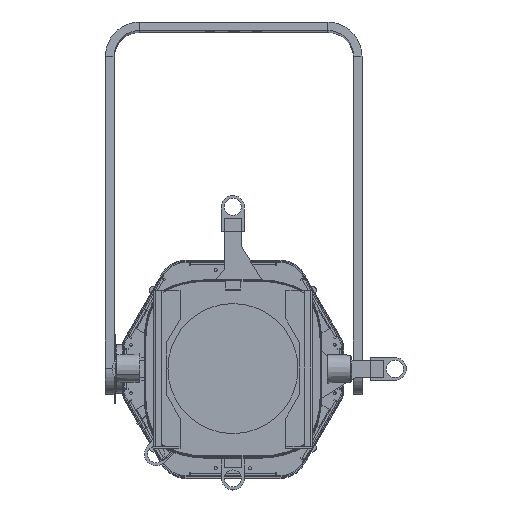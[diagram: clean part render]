
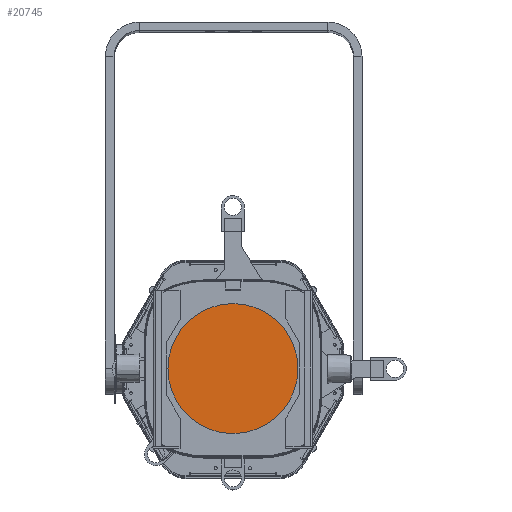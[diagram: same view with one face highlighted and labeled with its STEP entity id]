
A CAD part, top view. The second image highlights one B-rep face of the part: STEP entity #20745.
In plain terms, the highlighted planar face has unit normal (0, 0, 1).
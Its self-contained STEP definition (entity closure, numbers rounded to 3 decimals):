
#2306 = VERTEX_POINT ( 'NONE', #68409 ) ;
#3079 = CARTESIAN_POINT ( 'NONE',  ( -33., 102., -11.2 ) ) ;
#3139 = CARTESIAN_POINT ( 'NONE',  ( 33., 102., -11.2 ) ) ;
#5195 = CARTESIAN_POINT ( 'NONE',  ( -33., -102., -11.2 ) ) ;
#5926 = CARTESIAN_POINT ( 'NONE',  ( 102., -33., -11.2 ) ) ;
#7780 = ORIENTED_EDGE ( 'NONE', *, *, #55023, .F. ) ;
#7999 = DIRECTION ( 'NONE',  ( 0., 1., 0. ) ) ;
#8021 = ORIENTED_EDGE ( 'NONE', *, *, #50386, .F. ) ;
#8260 = ORIENTED_EDGE ( 'NONE', *, *, #111846, .F. ) ;
#8783 = ORIENTED_EDGE ( 'NONE', *, *, #85737, .F. ) ;
#9195 = LINE ( 'NONE', #35740, #64296 ) ;
#10296 = VERTEX_POINT ( 'NONE', #16631 ) ;
#10663 = CARTESIAN_POINT ( 'NONE',  ( 0., -33., -11.2 ) ) ;
#10960 = CIRCLE ( 'NONE', #66763, 102. ) ;
#11269 = DIRECTION ( 'NONE',  ( -1., 0., 0. ) ) ;
#11684 = CARTESIAN_POINT ( 'NONE',  ( -33., 0., -11.2 ) ) ;
#12770 = CARTESIAN_POINT ( 'NONE',  ( -33., 0., -11.2 ) ) ;
#15212 = DIRECTION ( 'NONE',  ( 0., 0., -1. ) ) ;
#15408 = LINE ( 'NONE', #5195, #98752 ) ;
#15838 = DIRECTION ( 'NONE',  ( 1., 0., 0. ) ) ;
#16534 = CARTESIAN_POINT ( 'NONE',  ( 0., 33., -11.2 ) ) ;
#16631 = CARTESIAN_POINT ( 'NONE',  ( 86.712, -86.712, -11.2 ) ) ;
#17033 = CARTESIAN_POINT ( 'NONE',  ( 33., 0., -11.2 ) ) ;
#20018 = CARTESIAN_POINT ( 'NONE',  ( 33., 0., -11.2 ) ) ;
#20745 = ADVANCED_FACE ( 'NONE', ( #33569 ), #51045, .F. ) ;
#21069 = CIRCLE ( 'NONE', #40333, 102. ) ;
#21216 = CARTESIAN_POINT ( 'NONE',  ( -33., -102., -11.2 ) ) ;
#22005 = ORIENTED_EDGE ( 'NONE', *, *, #30252, .F. ) ;
#24533 = DIRECTION ( 'NONE',  ( -1., 0., 0. ) ) ;
#24609 = CIRCLE ( 'NONE', #30422, 102. ) ;
#24641 = AXIS2_PLACEMENT_3D ( 'NONE', #11684, #29219, #102731 ) ;
#25932 = CIRCLE ( 'NONE', #29901, 102. ) ;
#26976 = AXIS2_PLACEMENT_3D ( 'NONE', #79114, #15212, #62242 ) ;
#27405 = CARTESIAN_POINT ( 'NONE',  ( -86.712, -86.712, -11.2 ) ) ;
#29219 = DIRECTION ( 'NONE',  ( 0., 0., -1. ) ) ;
#29901 = AXIS2_PLACEMENT_3D ( 'NONE', #20018, #93550, #64085 ) ;
#30252 = EDGE_CURVE ( 'NONE', #61922, #75250, #10960, .T. ) ;
#30422 = AXIS2_PLACEMENT_3D ( 'NONE', #80684, #45075, #43287 ) ;
#30680 = ORIENTED_EDGE ( 'NONE', *, *, #86043, .F. ) ;
#30739 = CARTESIAN_POINT ( 'NONE',  ( -102., 33., -11.2 ) ) ;
#33569 = FACE_OUTER_BOUND ( 'NONE', #58948, .T. ) ;
#33931 = DIRECTION ( 'NONE',  ( -1., 0., 0. ) ) ;
#35162 = EDGE_CURVE ( 'NONE', #52404, #2306, #36545, .T. ) ;
#35740 = CARTESIAN_POINT ( 'NONE',  ( -102., 33., -11.2 ) ) ;
#35836 = VERTEX_POINT ( 'NONE', #69759 ) ;
#36199 = CIRCLE ( 'NONE', #24641, 102. ) ;
#36545 = CIRCLE ( 'NONE', #26976, 102. ) ;
#40288 = ORIENTED_EDGE ( 'NONE', *, *, #63602, .F. ) ;
#40333 = AXIS2_PLACEMENT_3D ( 'NONE', #10663, #110767, #11269 ) ;
#40699 = EDGE_CURVE ( 'NONE', #111765, #61922, #25932, .T. ) ;
#41615 = AXIS2_PLACEMENT_3D ( 'NONE', #70355, #112743, #24533 ) ;
#42062 = EDGE_CURVE ( 'NONE', #2306, #96644, #9195, .T. ) ;
#43287 = DIRECTION ( 'NONE',  ( -1., 0., 0. ) ) ;
#45075 = DIRECTION ( 'NONE',  ( 0., 0., -1. ) ) ;
#49540 = DIRECTION ( 'NONE',  ( 0., 0., -1. ) ) ;
#50386 = EDGE_CURVE ( 'NONE', #10296, #111294, #55135, .T. ) ;
#51045 = PLANE ( 'NONE',  #41615 ) ;
#51727 = LINE ( 'NONE', #5926, #67893 ) ;
#52404 = VERTEX_POINT ( 'NONE', #27405 ) ;
#52597 = DIRECTION ( 'NONE',  ( 0., 0., -1. ) ) ;
#55023 = EDGE_CURVE ( 'NONE', #107017, #111765, #106274, .T. ) ;
#55135 = CIRCLE ( 'NONE', #60896, 102. ) ;
#55816 = VECTOR ( 'NONE', #15838, 1000. ) ;
#57718 = CARTESIAN_POINT ( 'NONE',  ( 33., -102., -11.2 ) ) ;
#58926 = CIRCLE ( 'NONE', #78091, 102. ) ;
#58948 = EDGE_LOOP ( 'NONE', ( #8021, #40288, #8783, #22005, #113962, #7780, #8260, #109223, #68834, #89211, #64756, #30680 ) ) ;
#60473 = CARTESIAN_POINT ( 'NONE',  ( 33., 102., -11.2 ) ) ;
#60896 = AXIS2_PLACEMENT_3D ( 'NONE', #17033, #52597, #33931 ) ;
#61690 = EDGE_CURVE ( 'NONE', #96644, #91144, #24609, .T. ) ;
#61922 = VERTEX_POINT ( 'NONE', #68995 ) ;
#62242 = DIRECTION ( 'NONE',  ( -1., 0., 0. ) ) ;
#63602 = EDGE_CURVE ( 'NONE', #35836, #10296, #21069, .T. ) ;
#64085 = DIRECTION ( 'NONE',  ( -1., 0., 0. ) ) ;
#64296 = VECTOR ( 'NONE', #7999, 1000. ) ;
#64756 = ORIENTED_EDGE ( 'NONE', *, *, #94224, .F. ) ;
#66763 = AXIS2_PLACEMENT_3D ( 'NONE', #16534, #90067, #111154 ) ;
#67893 = VECTOR ( 'NONE', #116250, 1000. ) ;
#68232 = DIRECTION ( 'NONE',  ( -1., 0., 0. ) ) ;
#68409 = CARTESIAN_POINT ( 'NONE',  ( -102., -33., -11.2 ) ) ;
#68834 = ORIENTED_EDGE ( 'NONE', *, *, #42062, .F. ) ;
#68995 = CARTESIAN_POINT ( 'NONE',  ( 86.712, 86.712, -11.2 ) ) ;
#69759 = CARTESIAN_POINT ( 'NONE',  ( 102., -33., -11.2 ) ) ;
#70355 = CARTESIAN_POINT ( 'NONE',  ( -33., 0., -11.2 ) ) ;
#75250 = VERTEX_POINT ( 'NONE', #85097 ) ;
#76571 = CARTESIAN_POINT ( 'NONE',  ( -86.712, 86.712, -11.2 ) ) ;
#78091 = AXIS2_PLACEMENT_3D ( 'NONE', #12770, #49540, #68232 ) ;
#79114 = CARTESIAN_POINT ( 'NONE',  ( 0., -33., -11.2 ) ) ;
#80684 = CARTESIAN_POINT ( 'NONE',  ( 0., 33., -11.2 ) ) ;
#85097 = CARTESIAN_POINT ( 'NONE',  ( 102., 33., -11.2 ) ) ;
#85737 = EDGE_CURVE ( 'NONE', #75250, #35836, #51727, .T. ) ;
#86043 = EDGE_CURVE ( 'NONE', #111294, #96341, #15408, .T. ) ;
#89211 = ORIENTED_EDGE ( 'NONE', *, *, #35162, .F. ) ;
#90067 = DIRECTION ( 'NONE',  ( 0., 0., -1. ) ) ;
#91144 = VERTEX_POINT ( 'NONE', #76571 ) ;
#93550 = DIRECTION ( 'NONE',  ( 0., 0., -1. ) ) ;
#94224 = EDGE_CURVE ( 'NONE', #96341, #52404, #36199, .T. ) ;
#96341 = VERTEX_POINT ( 'NONE', #21216 ) ;
#96644 = VERTEX_POINT ( 'NONE', #30739 ) ;
#98752 = VECTOR ( 'NONE', #106446, 1000. ) ;
#102731 = DIRECTION ( 'NONE',  ( -1., 0., 0. ) ) ;
#106274 = LINE ( 'NONE', #60473, #55816 ) ;
#106446 = DIRECTION ( 'NONE',  ( -1., 0., 0. ) ) ;
#107017 = VERTEX_POINT ( 'NONE', #3079 ) ;
#109223 = ORIENTED_EDGE ( 'NONE', *, *, #61690, .F. ) ;
#110767 = DIRECTION ( 'NONE',  ( 0., 0., -1. ) ) ;
#111154 = DIRECTION ( 'NONE',  ( -1., 0., 0. ) ) ;
#111294 = VERTEX_POINT ( 'NONE', #57718 ) ;
#111765 = VERTEX_POINT ( 'NONE', #3139 ) ;
#111846 = EDGE_CURVE ( 'NONE', #91144, #107017, #58926, .T. ) ;
#112743 = DIRECTION ( 'NONE',  ( 0., 0., -1. ) ) ;
#113962 = ORIENTED_EDGE ( 'NONE', *, *, #40699, .F. ) ;
#116250 = DIRECTION ( 'NONE',  ( 0., -1., 0. ) ) ;
